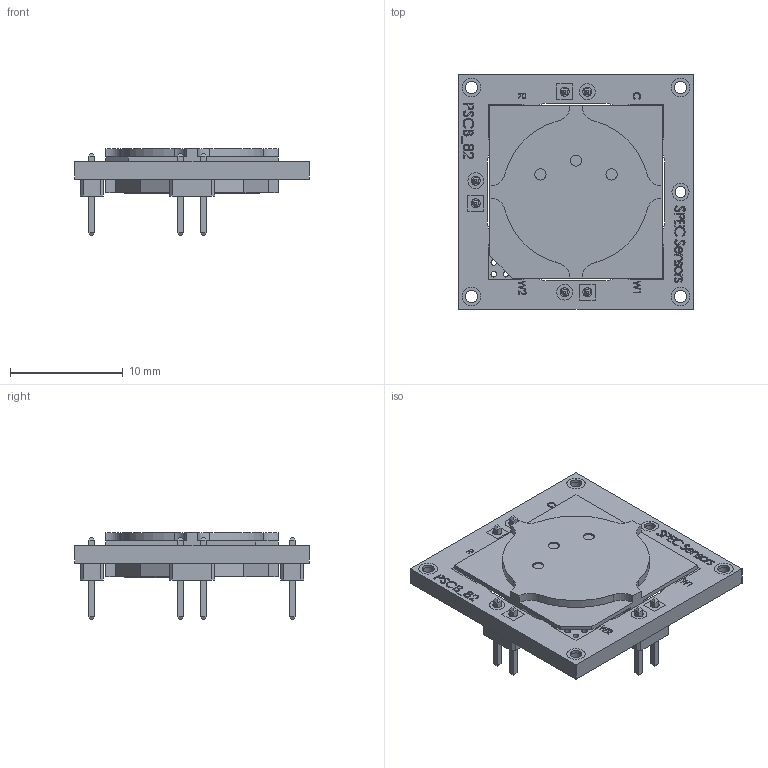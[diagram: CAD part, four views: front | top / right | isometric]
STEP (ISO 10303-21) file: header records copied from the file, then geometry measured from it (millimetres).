
FILE_DESCRIPTION (( 'STEP AP214' ), '1' );
FILE_NAME ('110-507 STEP.STEP', '2023-06-20T22:38:45', ( '' ), ( '' ), 'SwSTEP 2.0', 'SolidWorks 2017', '' );
FILE_SCHEMA (( 'AUTOMOTIVE_DESIGN' ));
Length unit declared in the file: millimetre
Products named in the file (6): semicircle barcode label; pinconnector; 110-507 STEP; 981-001; 100-502 STEP
Assembly tree (7 placements, depth 3):
  110-507 STEP
    100-502 STEP
    semicircle barcode label
    981-001
      981-001
      pinconnector  x3
Bounding box: 20.83 x 20.83 x 7.72 mm (x, y, z)
Volume: 979.4 mm3; surface area: 1923.5 mm2
Topology: 51 solids, 51 shells, 790 faces, 1999 edges, 1330 vertices
Faces by surface type: plane 440, bspline 191, cylinder 159
Full cylindrical faces by diameter (mm): 0.35 x1, 0.5 x64, 0.787 x12, 0.965 x2, 1 x3, 1.067 x8, 1.397 x6, 1.524 x2, 1.651 x8
Entity records: 35058 total; most frequent: CARTESIAN_POINT 14131, ORIENTED_EDGE 3386, DIRECTION 2697, EDGE_CURVE 1693, VERTEX_POINT 1194, EDGE_LOOP 1031, VECTOR 993, LINE 993
